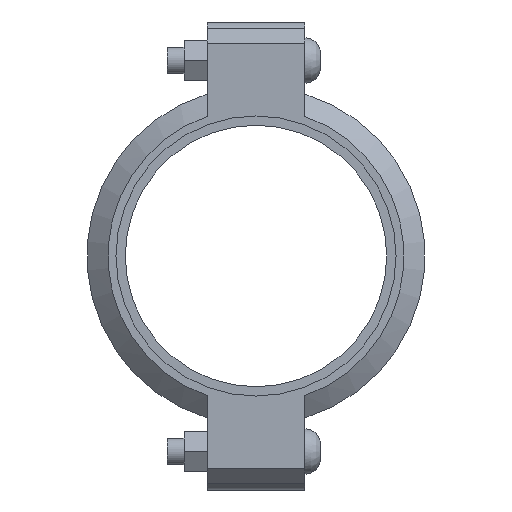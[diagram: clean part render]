
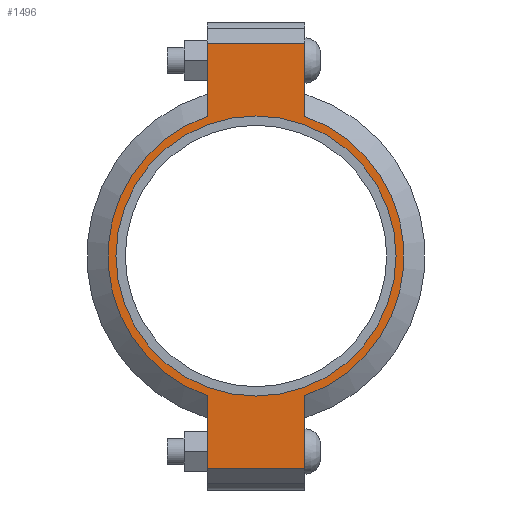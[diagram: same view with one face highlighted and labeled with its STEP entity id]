
A CAD part, left-side view. The second image highlights one B-rep face of the part: STEP entity #1496.
In plain terms, the highlighted planar face has unit normal (-1, 0, 0) as drawn and (0, 0, 1) by its records, which use the part's own axes.
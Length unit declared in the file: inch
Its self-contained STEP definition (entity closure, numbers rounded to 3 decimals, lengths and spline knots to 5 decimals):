
#176=LINE('',#2577,#267);
#184=LINE('',#2613,#275);
#191=LINE('',#2634,#282);
#200=LINE('',#2666,#291);
#201=LINE('',#2670,#292);
#202=LINE('',#2672,#293);
#267=VECTOR('',#2079,0.3937);
#275=VECTOR('',#2095,0.3937);
#282=VECTOR('',#2114,0.3937);
#291=VECTOR('',#2139,0.3937);
#292=VECTOR('',#2144,0.3937);
#293=VECTOR('',#2145,0.3937);
#345=FACE_BOUND('',#505,.T.);
#409=FACE_OUTER_BOUND('',#504,.T.);
#504=EDGE_LOOP('',(#1231,#1232,#1233,#1234,#1235,#1236,#1237,#1238));
#505=EDGE_LOOP('',(#1239));
#602=CIRCLE('',#1739,3.5);
#603=CIRCLE('',#1740,3.5);
#604=CIRCLE('',#1741,3.3125);
#707=VERTEX_POINT('',#2574);
#708=VERTEX_POINT('',#2576);
#719=VERTEX_POINT('',#2608);
#720=VERTEX_POINT('',#2612);
#727=VERTEX_POINT('',#2631);
#728=VERTEX_POINT('',#2633);
#738=VERTEX_POINT('',#2669);
#739=VERTEX_POINT('',#2671);
#740=VERTEX_POINT('',#2674);
#871=EDGE_CURVE('',#708,#707,#176,.T.);
#885=EDGE_CURVE('',#720,#719,#184,.T.);
#895=EDGE_CURVE('',#728,#727,#191,.T.);
#910=EDGE_CURVE('',#720,#707,#200,.T.);
#911=EDGE_CURVE('',#719,#728,#602,.T.);
#912=EDGE_CURVE('',#738,#727,#201,.T.);
#913=EDGE_CURVE('',#738,#739,#202,.T.);
#914=EDGE_CURVE('',#739,#708,#603,.T.);
#915=EDGE_CURVE('',#740,#740,#604,.T.);
#1231=ORIENTED_EDGE('',*,*,#910,.F.);
#1232=ORIENTED_EDGE('',*,*,#885,.T.);
#1233=ORIENTED_EDGE('',*,*,#911,.T.);
#1234=ORIENTED_EDGE('',*,*,#895,.T.);
#1235=ORIENTED_EDGE('',*,*,#912,.F.);
#1236=ORIENTED_EDGE('',*,*,#913,.T.);
#1237=ORIENTED_EDGE('',*,*,#914,.T.);
#1238=ORIENTED_EDGE('',*,*,#871,.T.);
#1239=ORIENTED_EDGE('',*,*,#915,.T.);
#1350=PLANE('',#1738);
#1496=ADVANCED_FACE('',(#409,#345),#1350,.T.);
#1738=AXIS2_PLACEMENT_3D('',#2667,#2140,#2141);
#1739=AXIS2_PLACEMENT_3D('',#2668,#2142,#2143);
#1740=AXIS2_PLACEMENT_3D('',#2673,#2146,#2147);
#1741=AXIS2_PLACEMENT_3D('',#2675,#2148,#2149);
#2079=DIRECTION('',(-1.,0.,0.));
#2095=DIRECTION('',(1.,0.,0.));
#2114=DIRECTION('',(1.,0.,0.));
#2139=DIRECTION('',(0.,1.,0.));
#2140=DIRECTION('center_axis',(0.,0.,1.));
#2141=DIRECTION('ref_axis',(1.,0.,0.));
#2142=DIRECTION('center_axis',(0.,0.,1.));
#2143=DIRECTION('ref_axis',(-1.,0.,0.));
#2144=DIRECTION('',(0.,-1.,0.));
#2145=DIRECTION('',(-1.,0.,0.));
#2146=DIRECTION('center_axis',(0.,0.,1.));
#2147=DIRECTION('ref_axis',(-1.,0.,0.));
#2148=DIRECTION('center_axis',(0.,0.,-1.));
#2149=DIRECTION('ref_axis',(-1.,0.,0.));
#2574=CARTESIAN_POINT('',(-5.035,1.156,1.065));
#2576=CARTESIAN_POINT('',(-3.30358,1.156,1.065));
#2577=CARTESIAN_POINT('',(-5.535,1.156,1.065));
#2608=CARTESIAN_POINT('',(-3.30358,-1.156,1.065));
#2612=CARTESIAN_POINT('',(-5.035,-1.156,1.065));
#2613=CARTESIAN_POINT('',(5.535,-1.156,1.065));
#2631=CARTESIAN_POINT('',(5.035,-1.156,1.065));
#2633=CARTESIAN_POINT('',(3.30358,-1.156,1.065));
#2634=CARTESIAN_POINT('',(5.535,-1.156,1.065));
#2666=CARTESIAN_POINT('',(-5.035,0.578,1.065));
#2667=CARTESIAN_POINT('Origin',(0.,0.,1.065));
#2668=CARTESIAN_POINT('Origin',(0.,0.,1.065));
#2669=CARTESIAN_POINT('',(5.035,1.156,1.065));
#2670=CARTESIAN_POINT('',(5.035,-0.578,1.065));
#2671=CARTESIAN_POINT('',(3.30358,1.156,1.065));
#2672=CARTESIAN_POINT('',(-5.535,1.156,1.065));
#2673=CARTESIAN_POINT('Origin',(0.,0.,1.065));
#2674=CARTESIAN_POINT('',(3.3125,0.,1.065));
#2675=CARTESIAN_POINT('Origin',(0.,0.,1.065));
